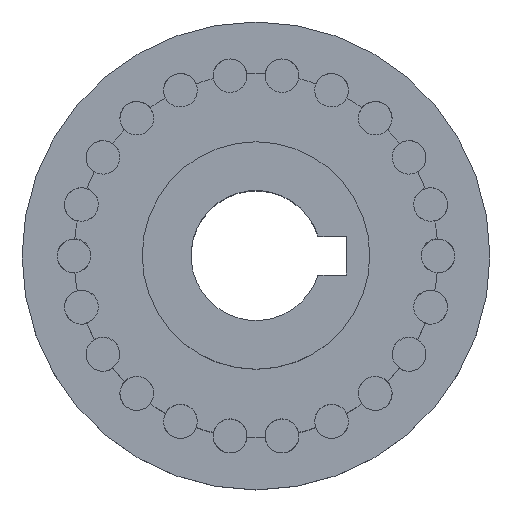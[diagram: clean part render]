
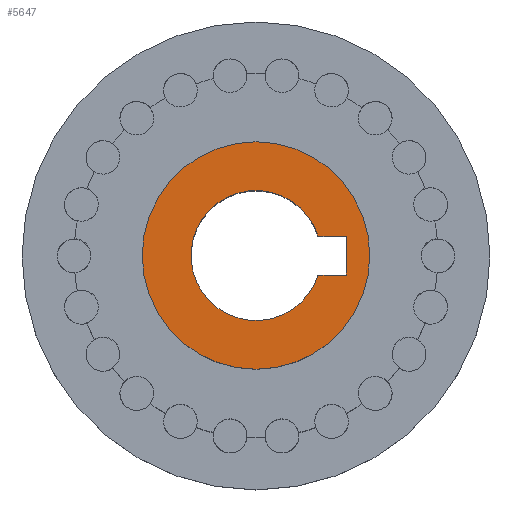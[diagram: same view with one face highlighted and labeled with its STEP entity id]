
A CAD part, top view. The second image highlights one B-rep face of the part: STEP entity #5647.
In plain terms, the highlighted planar face has unit normal (0, 0, 1).
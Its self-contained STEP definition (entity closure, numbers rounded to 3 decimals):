
#1941 = CYLINDRICAL_SURFACE('',#1942,10.);
#1942 = AXIS2_PLACEMENT_3D('',#1943,#1944,#1945);
#1943 = CARTESIAN_POINT('',(0.,0.,-14.));
#1944 = DIRECTION('',(0.,0.,1.));
#1945 = DIRECTION('',(1.,0.,-0.));
#1968 = PLANE('',#1969);
#1969 = AXIS2_PLACEMENT_3D('',#1970,#1971,#1972);
#1970 = CARTESIAN_POINT('',(8.95,3.,-14.));
#1971 = DIRECTION('',(-0.,1.,0.));
#1972 = DIRECTION('',(0.,0.,1.));
#1994 = PLANE('',#1995);
#1995 = AXIS2_PLACEMENT_3D('',#1996,#1997,#1998);
#1996 = CARTESIAN_POINT('',(13.85,-3.,-14.));
#1997 = DIRECTION('',(1.,0.,-0.));
#1998 = DIRECTION('',(0.,0.,1.));
#2018 = PLANE('',#2019);
#2019 = AXIS2_PLACEMENT_3D('',#2020,#2021,#2022);
#2020 = CARTESIAN_POINT('',(8.95,-3.,-14.));
#2021 = DIRECTION('',(-0.,1.,0.));
#2022 = DIRECTION('',(0.,0.,1.));
#5293 = EDGE_CURVE('',#5294,#5296,#5298,.T.);
#5294 = VERTEX_POINT('',#5295);
#5295 = CARTESIAN_POINT('',(9.539,3.,38.));
#5296 = VERTEX_POINT('',#5297);
#5297 = CARTESIAN_POINT('',(9.539,-3.,38.));
#5298 = SURFACE_CURVE('',#5299,(#5304,#5311),.PCURVE_S1.);
#5299 = CIRCLE('',#5300,10.);
#5300 = AXIS2_PLACEMENT_3D('',#5301,#5302,#5303);
#5301 = CARTESIAN_POINT('',(0.,0.,38.));
#5302 = DIRECTION('',(0.,0.,1.));
#5303 = DIRECTION('',(1.,0.,-0.));
#5304 = PCURVE('',#1941,#5305);
#5305 = DEFINITIONAL_REPRESENTATION('',(#5306),#5310);
#5306 = LINE('',#5307,#5308);
#5307 = CARTESIAN_POINT('',(0.,52.));
#5308 = VECTOR('',#5309,1.);
#5309 = DIRECTION('',(1.,0.));
#5310 = ( GEOMETRIC_REPRESENTATION_CONTEXT(2) 
PARAMETRIC_REPRESENTATION_CONTEXT() REPRESENTATION_CONTEXT('2D SPACE',''
  ) );
#5311 = PCURVE('',#5312,#5317);
#5312 = PLANE('',#5313);
#5313 = AXIS2_PLACEMENT_3D('',#5314,#5315,#5316);
#5314 = CARTESIAN_POINT('',(0.,0.,38.));
#5315 = DIRECTION('',(0.,0.,1.));
#5316 = DIRECTION('',(1.,0.,-0.));
#5317 = DEFINITIONAL_REPRESENTATION('',(#5318),#5322);
#5318 = CIRCLE('',#5319,10.);
#5319 = AXIS2_PLACEMENT_2D('',#5320,#5321);
#5320 = CARTESIAN_POINT('',(0.,0.));
#5321 = DIRECTION('',(1.,0.));
#5322 = ( GEOMETRIC_REPRESENTATION_CONTEXT(2) 
PARAMETRIC_REPRESENTATION_CONTEXT() REPRESENTATION_CONTEXT('2D SPACE',''
  ) );
#5367 = VERTEX_POINT('',#5368);
#5368 = CARTESIAN_POINT('',(13.85,-3.,38.));
#5391 = EDGE_CURVE('',#5367,#5296,#5392,.T.);
#5392 = SURFACE_CURVE('',#5393,(#5397,#5403),.PCURVE_S1.);
#5393 = LINE('',#5394,#5395);
#5394 = CARTESIAN_POINT('',(4.475,-3.,38.));
#5395 = VECTOR('',#5396,1.);
#5396 = DIRECTION('',(-1.,-0.,0.));
#5397 = PCURVE('',#2018,#5398);
#5398 = DEFINITIONAL_REPRESENTATION('',(#5399),#5402);
#5399 = B_SPLINE_CURVE_WITH_KNOTS('',1,(#5400,#5401),.UNSPECIFIED.,.F.,
  .F.,(2,2),(-9.375,-4.475),.PIECEWISE_BEZIER_KNOTS.);
#5400 = CARTESIAN_POINT('',(52.,4.9));
#5401 = CARTESIAN_POINT('',(52.,0.));
#5402 = ( GEOMETRIC_REPRESENTATION_CONTEXT(2) 
PARAMETRIC_REPRESENTATION_CONTEXT() REPRESENTATION_CONTEXT('2D SPACE',''
  ) );
#5403 = PCURVE('',#5312,#5404);
#5404 = DEFINITIONAL_REPRESENTATION('',(#5405),#5408);
#5405 = B_SPLINE_CURVE_WITH_KNOTS('',1,(#5406,#5407),.UNSPECIFIED.,.F.,
  .F.,(2,2),(-9.375,-4.475),.PIECEWISE_BEZIER_KNOTS.);
#5406 = CARTESIAN_POINT('',(13.85,-3.));
#5407 = CARTESIAN_POINT('',(8.95,-3.));
#5408 = ( GEOMETRIC_REPRESENTATION_CONTEXT(2) 
PARAMETRIC_REPRESENTATION_CONTEXT() REPRESENTATION_CONTEXT('2D SPACE',''
  ) );
#5416 = VERTEX_POINT('',#5417);
#5417 = CARTESIAN_POINT('',(13.85,3.,38.));
#5438 = EDGE_CURVE('',#5367,#5416,#5439,.T.);
#5439 = SURFACE_CURVE('',#5440,(#5444,#5450),.PCURVE_S1.);
#5440 = LINE('',#5441,#5442);
#5441 = CARTESIAN_POINT('',(13.85,-1.5,38.));
#5442 = VECTOR('',#5443,1.);
#5443 = DIRECTION('',(-0.,1.,0.));
#5444 = PCURVE('',#1994,#5445);
#5445 = DEFINITIONAL_REPRESENTATION('',(#5446),#5449);
#5446 = B_SPLINE_CURVE_WITH_KNOTS('',1,(#5447,#5448),.UNSPECIFIED.,.F.,
  .F.,(2,2),(-1.5,4.5),.PIECEWISE_BEZIER_KNOTS.);
#5447 = CARTESIAN_POINT('',(52.,0.));
#5448 = CARTESIAN_POINT('',(52.,-6.));
#5449 = ( GEOMETRIC_REPRESENTATION_CONTEXT(2) 
PARAMETRIC_REPRESENTATION_CONTEXT() REPRESENTATION_CONTEXT('2D SPACE',''
  ) );
#5450 = PCURVE('',#5312,#5451);
#5451 = DEFINITIONAL_REPRESENTATION('',(#5452),#5455);
#5452 = B_SPLINE_CURVE_WITH_KNOTS('',1,(#5453,#5454),.UNSPECIFIED.,.F.,
  .F.,(2,2),(-1.5,4.5),.PIECEWISE_BEZIER_KNOTS.);
#5453 = CARTESIAN_POINT('',(13.85,-3.));
#5454 = CARTESIAN_POINT('',(13.85,3.));
#5455 = ( GEOMETRIC_REPRESENTATION_CONTEXT(2) 
PARAMETRIC_REPRESENTATION_CONTEXT() REPRESENTATION_CONTEXT('2D SPACE',''
  ) );
#5463 = EDGE_CURVE('',#5416,#5294,#5464,.T.);
#5464 = SURFACE_CURVE('',#5465,(#5469,#5475),.PCURVE_S1.);
#5465 = LINE('',#5466,#5467);
#5466 = CARTESIAN_POINT('',(4.475,3.,38.));
#5467 = VECTOR('',#5468,1.);
#5468 = DIRECTION('',(-1.,-0.,0.));
#5469 = PCURVE('',#1968,#5470);
#5470 = DEFINITIONAL_REPRESENTATION('',(#5471),#5474);
#5471 = B_SPLINE_CURVE_WITH_KNOTS('',1,(#5472,#5473),.UNSPECIFIED.,.F.,
  .F.,(2,2),(-9.375,-4.475),.PIECEWISE_BEZIER_KNOTS.);
#5472 = CARTESIAN_POINT('',(52.,4.9));
#5473 = CARTESIAN_POINT('',(52.,0.));
#5474 = ( GEOMETRIC_REPRESENTATION_CONTEXT(2) 
PARAMETRIC_REPRESENTATION_CONTEXT() REPRESENTATION_CONTEXT('2D SPACE',''
  ) );
#5475 = PCURVE('',#5312,#5476);
#5476 = DEFINITIONAL_REPRESENTATION('',(#5477),#5480);
#5477 = B_SPLINE_CURVE_WITH_KNOTS('',1,(#5478,#5479),.UNSPECIFIED.,.F.,
  .F.,(2,2),(-9.375,-4.475),.PIECEWISE_BEZIER_KNOTS.);
#5478 = CARTESIAN_POINT('',(13.85,3.));
#5479 = CARTESIAN_POINT('',(8.95,3.));
#5480 = ( GEOMETRIC_REPRESENTATION_CONTEXT(2) 
PARAMETRIC_REPRESENTATION_CONTEXT() REPRESENTATION_CONTEXT('2D SPACE',''
  ) );
#5548 = CYLINDRICAL_SURFACE('',#5549,17.5);
#5549 = AXIS2_PLACEMENT_3D('',#5550,#5551,#5552);
#5550 = CARTESIAN_POINT('',(0.,0.,30.));
#5551 = DIRECTION('',(0.,0.,1.));
#5552 = DIRECTION('',(1.,0.,-0.));
#5647 = ADVANCED_FACE('',(#5648,#5674),#5312,.T.);
#5648 = FACE_BOUND('',#5649,.T.);
#5649 = EDGE_LOOP('',(#5650));
#5650 = ORIENTED_EDGE('',*,*,#5651,.T.);
#5651 = EDGE_CURVE('',#5652,#5652,#5654,.T.);
#5652 = VERTEX_POINT('',#5653);
#5653 = CARTESIAN_POINT('',(17.5,0.,38.));
#5654 = SURFACE_CURVE('',#5655,(#5660,#5667),.PCURVE_S1.);
#5655 = CIRCLE('',#5656,17.5);
#5656 = AXIS2_PLACEMENT_3D('',#5657,#5658,#5659);
#5657 = CARTESIAN_POINT('',(0.,0.,38.));
#5658 = DIRECTION('',(0.,0.,1.));
#5659 = DIRECTION('',(1.,0.,-0.));
#5660 = PCURVE('',#5312,#5661);
#5661 = DEFINITIONAL_REPRESENTATION('',(#5662),#5666);
#5662 = CIRCLE('',#5663,17.5);
#5663 = AXIS2_PLACEMENT_2D('',#5664,#5665);
#5664 = CARTESIAN_POINT('',(0.,0.));
#5665 = DIRECTION('',(1.,0.));
#5666 = ( GEOMETRIC_REPRESENTATION_CONTEXT(2) 
PARAMETRIC_REPRESENTATION_CONTEXT() REPRESENTATION_CONTEXT('2D SPACE',''
  ) );
#5667 = PCURVE('',#5548,#5668);
#5668 = DEFINITIONAL_REPRESENTATION('',(#5669),#5673);
#5669 = LINE('',#5670,#5671);
#5670 = CARTESIAN_POINT('',(0.,8.));
#5671 = VECTOR('',#5672,1.);
#5672 = DIRECTION('',(1.,0.));
#5673 = ( GEOMETRIC_REPRESENTATION_CONTEXT(2) 
PARAMETRIC_REPRESENTATION_CONTEXT() REPRESENTATION_CONTEXT('2D SPACE',''
  ) );
#5674 = FACE_BOUND('',#5675,.T.);
#5675 = EDGE_LOOP('',(#5676,#5677,#5678,#5679));
#5676 = ORIENTED_EDGE('',*,*,#5293,.F.);
#5677 = ORIENTED_EDGE('',*,*,#5463,.F.);
#5678 = ORIENTED_EDGE('',*,*,#5438,.F.);
#5679 = ORIENTED_EDGE('',*,*,#5391,.T.);
